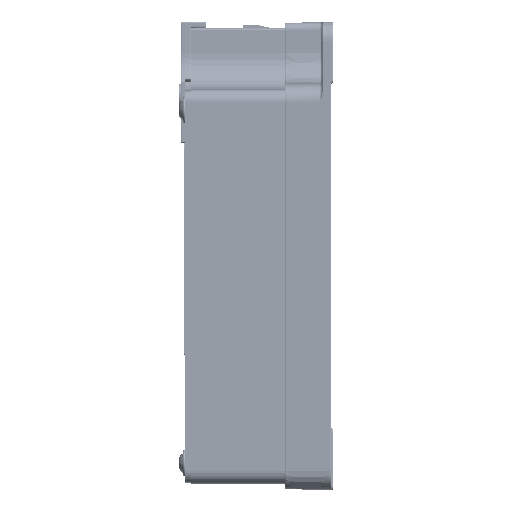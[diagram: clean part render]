
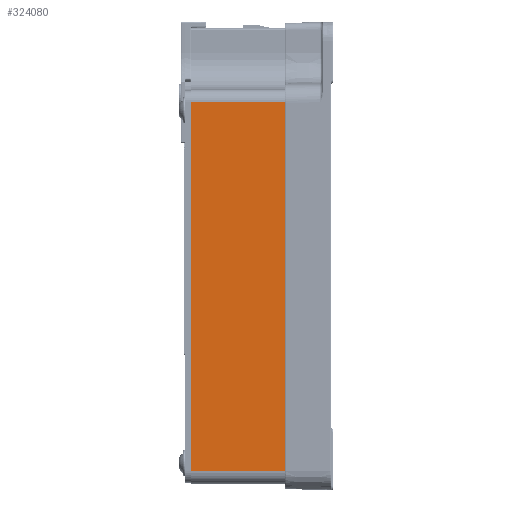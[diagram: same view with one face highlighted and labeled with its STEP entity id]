
A CAD part, left-side view. The second image highlights one B-rep face of the part: STEP entity #324080.
In plain terms, the highlighted planar face has unit normal (-1, 0, 0).
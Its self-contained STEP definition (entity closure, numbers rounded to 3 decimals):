
#7837 = EDGE_LOOP ( 'NONE', ( #17853, #171539, #229037, #418550 ) ) ;
#17853 = ORIENTED_EDGE ( 'NONE', *, *, #414752, .F. ) ;
#26408 = LINE ( 'NONE', #417495, #91180 ) ;
#49458 = CARTESIAN_POINT ( 'NONE',  ( -83.315, 10.6, -57.51 ) ) ;
#54432 = CARTESIAN_POINT ( 'NONE',  ( -83.315, 37., 41.15 ) ) ;
#57754 = EDGE_CURVE ( 'NONE', #288656, #408489, #380751, .T. ) ;
#71439 = VERTEX_POINT ( 'NONE', #262522 ) ;
#71899 = DIRECTION ( 'NONE',  ( 0., 1., 0. ) ) ;
#81578 = VERTEX_POINT ( 'NONE', #54432 ) ;
#81976 = DIRECTION ( 'NONE',  ( 1., 0., 0. ) ) ;
#84283 = VECTOR ( 'NONE', #71899, 1000. ) ;
#91180 = VECTOR ( 'NONE', #219884, 1000. ) ;
#113973 = CARTESIAN_POINT ( 'NONE',  ( -83.315, 37., -60.83 ) ) ;
#150648 = VECTOR ( 'NONE', #348924, 1000. ) ;
#160932 = EDGE_CURVE ( 'NONE', #71439, #81578, #233449, .T. ) ;
#163649 = VECTOR ( 'NONE', #350438, 1000. ) ;
#171539 = ORIENTED_EDGE ( 'NONE', *, *, #57754, .T. ) ;
#184632 = CARTESIAN_POINT ( 'NONE',  ( -83.315, 10.6, -60.83 ) ) ;
#219884 = DIRECTION ( 'NONE',  ( 0., 0., 1. ) ) ;
#220784 = LINE ( 'NONE', #184632, #163649 ) ;
#229037 = ORIENTED_EDGE ( 'NONE', *, *, #412806, .T. ) ;
#233449 = LINE ( 'NONE', #363125, #84283 ) ;
#239381 = FACE_OUTER_BOUND ( 'NONE', #7837, .T. ) ;
#262522 = CARTESIAN_POINT ( 'NONE',  ( -83.315, 10.6, 41.15 ) ) ;
#281779 = AXIS2_PLACEMENT_3D ( 'NONE', #113973, #81976, #341346 ) ;
#287188 = CARTESIAN_POINT ( 'NONE',  ( -83.315, 37., -57.51 ) ) ;
#288656 = VERTEX_POINT ( 'NONE', #295626 ) ;
#295626 = CARTESIAN_POINT ( 'NONE',  ( -83.315, 37., -57.51 ) ) ;
#324080 = ADVANCED_FACE ( 'NONE', ( #239381 ), #405189, .F. ) ;
#341346 = DIRECTION ( 'NONE',  ( 0., 0., -1. ) ) ;
#348924 = DIRECTION ( 'NONE',  ( 0., -1., 0. ) ) ;
#350438 = DIRECTION ( 'NONE',  ( 0., 0., 1. ) ) ;
#363125 = CARTESIAN_POINT ( 'NONE',  ( -83.315, 37., 41.15 ) ) ;
#380751 = LINE ( 'NONE', #287188, #150648 ) ;
#405189 = PLANE ( 'NONE',  #281779 ) ;
#408489 = VERTEX_POINT ( 'NONE', #49458 ) ;
#412806 = EDGE_CURVE ( 'NONE', #408489, #71439, #220784, .T. ) ;
#414752 = EDGE_CURVE ( 'NONE', #288656, #81578, #26408, .T. ) ;
#417495 = CARTESIAN_POINT ( 'NONE',  ( -83.315, 37., -60.83 ) ) ;
#418550 = ORIENTED_EDGE ( 'NONE', *, *, #160932, .T. ) ;
